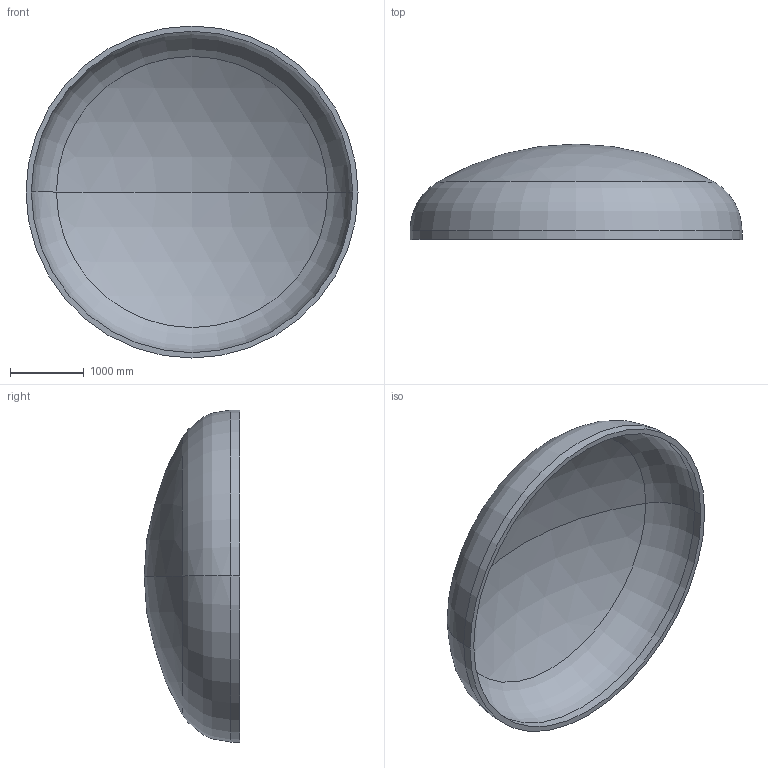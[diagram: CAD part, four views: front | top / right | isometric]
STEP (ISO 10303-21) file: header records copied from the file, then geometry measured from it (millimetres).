
FILE_DESCRIPTION (( 'STEP AP203' ), '1' );
FILE_NAME ('DIN 28013 Korbbogenform_-_Boden DIN 28013 - 4500 x 120 - I - s=72.step', '2016-07-01T23:40:25', ( '' ), ( '' ), 'SwSTEP 2.0', 'SolidWorks 2013', '' );
FILE_SCHEMA (( 'CONFIG_CONTROL_DESIGN' ));
Length unit declared in the file: millimetre
Products named in the file (1): DIN 28013 Korbbogenform_-_Boden DIN 28013 - 4500 x 120 - I - s=72
Bounding box: 4500 x 1294.05 x 4500 mm (x, y, z)
Volume: 1673896611.6 mm3; surface area: 47509558.7 mm2
Topology: 1 solids, 1 shells, 13 faces, 24 edges, 14 vertices
Faces by surface type: torus 4, cylinder 4, sphere 4, plane 1
Entity records: 407 total; most frequent: DIRECTION 72, CARTESIAN_POINT 52, ORIENTED_EDGE 48, AXIS2_PLACEMENT_3D 34, EDGE_CURVE 24, CIRCLE 20, VERTEX_POINT 14, EDGE_LOOP 14
